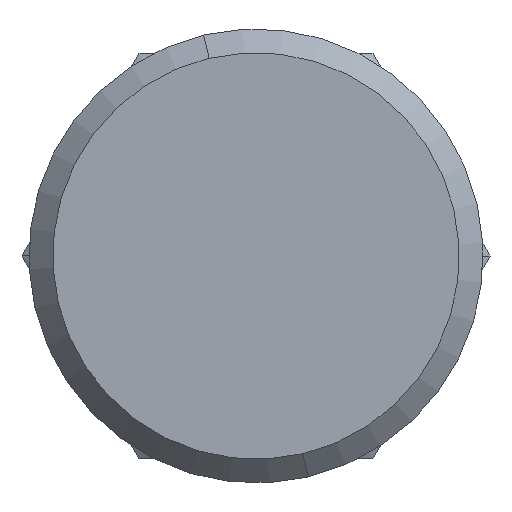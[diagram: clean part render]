
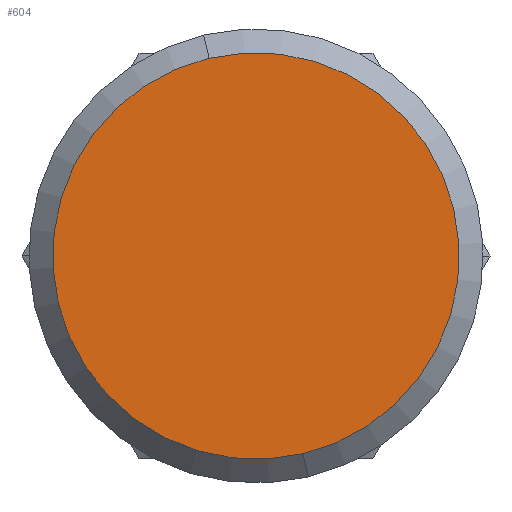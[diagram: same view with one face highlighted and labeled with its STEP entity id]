
A CAD part, front view. The second image highlights one B-rep face of the part: STEP entity #604.
In plain terms, the highlighted planar face has unit normal (0, -1, 0).
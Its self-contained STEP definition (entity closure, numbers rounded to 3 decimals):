
#240 = AXIS2_PLACEMENT_3D ( 'NONE', #923, #924, #925 ) ;
#260 = CIRCLE ( 'NONE', #240, 8.525 ) ;
#270 = AXIS2_PLACEMENT_3D ( 'NONE', #876, #883, #884 ) ;
#604 = ADVANCED_FACE ( 'NONE', ( #878 ), #882, .T. ) ;
#612 = EDGE_CURVE ( 'NONE', #1464, #1448, #260, .T. ) ;
#691 = EDGE_CURVE ( 'NONE', #1448, #1464, #1163, .T. ) ;
#722 = EDGE_LOOP ( 'NONE', ( #1138, #1142 ) ) ;
#876 = CARTESIAN_POINT ( 'NONE',  ( -9.525, 0., 0. ) ) ;
#878 = FACE_OUTER_BOUND ( 'NONE', #722, .T. ) ;
#882 = PLANE ( 'NONE',  #270 ) ;
#883 = DIRECTION ( 'NONE',  ( 0., -1., 0. ) ) ;
#884 = DIRECTION ( 'NONE',  ( 0., 0., -1. ) ) ;
#923 = CARTESIAN_POINT ( 'NONE',  ( 0., 0., 0. ) ) ;
#924 = DIRECTION ( 'NONE',  ( 0., -1., 0. ) ) ;
#925 = DIRECTION ( 'NONE',  ( 0., 0., -1. ) ) ;
#1138 = ORIENTED_EDGE ( 'NONE', *, *, #691, .T. ) ;
#1142 = ORIENTED_EDGE ( 'NONE', *, *, #612, .T. ) ;
#1163 = CIRCLE ( 'NONE', #1169, 8.525 ) ;
#1169 = AXIS2_PLACEMENT_3D ( 'NONE', #1558, #1559, #1560 ) ;
#1448 = VERTEX_POINT ( 'NONE', #1580 ) ;
#1464 = VERTEX_POINT ( 'NONE', #1593 ) ;
#1558 = CARTESIAN_POINT ( 'NONE',  ( 0., 0., 0. ) ) ;
#1559 = DIRECTION ( 'NONE',  ( 0., -1., 0. ) ) ;
#1560 = DIRECTION ( 'NONE',  ( 0., 0., -1. ) ) ;
#1580 = CARTESIAN_POINT ( 'NONE',  ( 0., 0., 8.525 ) ) ;
#1593 = CARTESIAN_POINT ( 'NONE',  ( 0., 0., -8.525 ) ) ;
